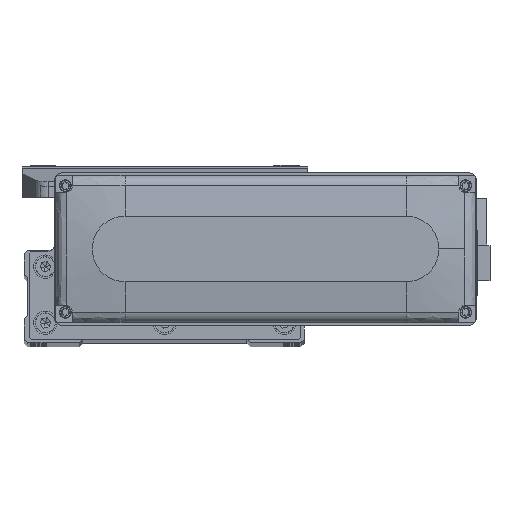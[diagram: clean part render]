
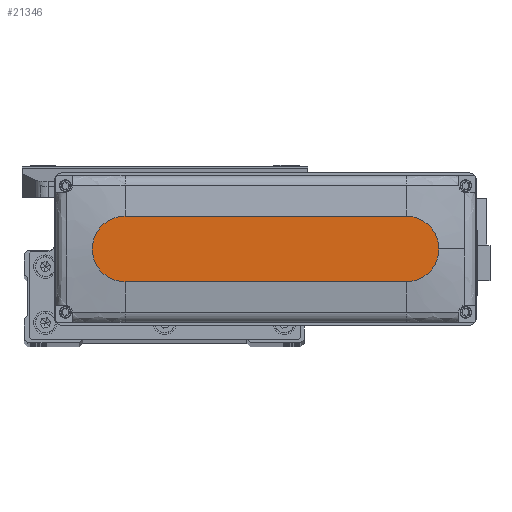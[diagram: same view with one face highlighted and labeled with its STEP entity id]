
A CAD part, top view. The second image highlights one B-rep face of the part: STEP entity #21346.
In plain terms, the highlighted planar face has unit normal (0, 0, 1).
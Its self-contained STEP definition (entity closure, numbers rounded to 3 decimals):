
#698 = DIRECTION ( 'NONE',  ( 0., 0., 1. ) ) ;
#2652 = AXIS2_PLACEMENT_3D ( 'NONE', #8488, #23123, #37739 ) ;
#3085 = ORIENTED_EDGE ( 'NONE', *, *, #7410, .T. ) ;
#3087 = DIRECTION ( 'NONE',  ( -1., 0., 0. ) ) ;
#3299 = VERTEX_POINT ( 'NONE', #37900 ) ;
#4358 = AXIS2_PLACEMENT_3D ( 'NONE', #14522, #29159, #43768 ) ;
#5112 = CIRCLE ( 'NONE', #4358, 14. ) ;
#7410 = EDGE_CURVE ( 'NONE', #17805, #3299, #5112, .T. ) ;
#8437 = DIRECTION ( 'NONE',  ( 1., 0., 0. ) ) ;
#8488 = CARTESIAN_POINT ( 'NONE',  ( 0., 0., 28.5 ) ) ;
#8983 = VERTEX_POINT ( 'NONE', #12839 ) ;
#11833 = EDGE_LOOP ( 'NONE', ( #24924, #47074, #41633, #3085, #28634 ) ) ;
#12084 = CARTESIAN_POINT ( 'NONE',  ( -60., -14., 28.5 ) ) ;
#12299 = VERTEX_POINT ( 'NONE', #12084 ) ;
#12839 = CARTESIAN_POINT ( 'NONE',  ( -60., 14., 28.5 ) ) ;
#14316 = DIRECTION ( 'NONE',  ( 0., 0., 1. ) ) ;
#14522 = CARTESIAN_POINT ( 'NONE',  ( 60., 0., 28.5 ) ) ;
#14662 = AXIS2_PLACEMENT_3D ( 'NONE', #47153, #14316, #28955 ) ;
#15313 = DIRECTION ( 'NONE',  ( 1., 0., 0. ) ) ;
#17389 = VECTOR ( 'NONE', #3087, 1000. ) ;
#17775 = AXIS2_PLACEMENT_3D ( 'NONE', #33556, #698, #15313 ) ;
#17805 = VERTEX_POINT ( 'NONE', #18678 ) ;
#18678 = CARTESIAN_POINT ( 'NONE',  ( 60., -14., 28.5 ) ) ;
#19084 = EDGE_CURVE ( 'NONE', #8983, #12299, #32334, .T. ) ;
#21308 = LINE ( 'NONE', #35933, #17389 ) ;
#21346 = ADVANCED_FACE ( 'NONE', ( #26709 ), #41320, .T. ) ;
#23078 = EDGE_CURVE ( 'NONE', #3299, #37367, #35337, .T. ) ;
#23123 = DIRECTION ( 'NONE',  ( 0., 0., 1. ) ) ;
#23660 = CARTESIAN_POINT ( 'NONE',  ( 60., 14., 28.5 ) ) ;
#24924 = ORIENTED_EDGE ( 'NONE', *, *, #30216, .T. ) ;
#26660 = LINE ( 'NONE', #41270, #39835 ) ;
#26709 = FACE_OUTER_BOUND ( 'NONE', #11833, .T. ) ;
#28634 = ORIENTED_EDGE ( 'NONE', *, *, #23078, .T. ) ;
#28955 = DIRECTION ( 'NONE',  ( 1., 0., 0. ) ) ;
#29159 = DIRECTION ( 'NONE',  ( 0., 0., 1. ) ) ;
#30216 = EDGE_CURVE ( 'NONE', #37367, #8983, #21308, .T. ) ;
#32334 = CIRCLE ( 'NONE', #17775, 14. ) ;
#33556 = CARTESIAN_POINT ( 'NONE',  ( -60., 0., 28.5 ) ) ;
#35337 = CIRCLE ( 'NONE', #14662, 14. ) ;
#35933 = CARTESIAN_POINT ( 'NONE',  ( -60., 14., 28.5 ) ) ;
#37367 = VERTEX_POINT ( 'NONE', #23660 ) ;
#37739 = DIRECTION ( 'NONE',  ( 1., 0., 0. ) ) ;
#37900 = CARTESIAN_POINT ( 'NONE',  ( 74., 0., 28.5 ) ) ;
#39835 = VECTOR ( 'NONE', #8437, 1000. ) ;
#41270 = CARTESIAN_POINT ( 'NONE',  ( -60., -14., 28.5 ) ) ;
#41320 = PLANE ( 'NONE',  #2652 ) ;
#41633 = ORIENTED_EDGE ( 'NONE', *, *, #45212, .T. ) ;
#43768 = DIRECTION ( 'NONE',  ( 1., 0., 0. ) ) ;
#45212 = EDGE_CURVE ( 'NONE', #12299, #17805, #26660, .T. ) ;
#47074 = ORIENTED_EDGE ( 'NONE', *, *, #19084, .T. ) ;
#47153 = CARTESIAN_POINT ( 'NONE',  ( 60., 0., 28.5 ) ) ;
